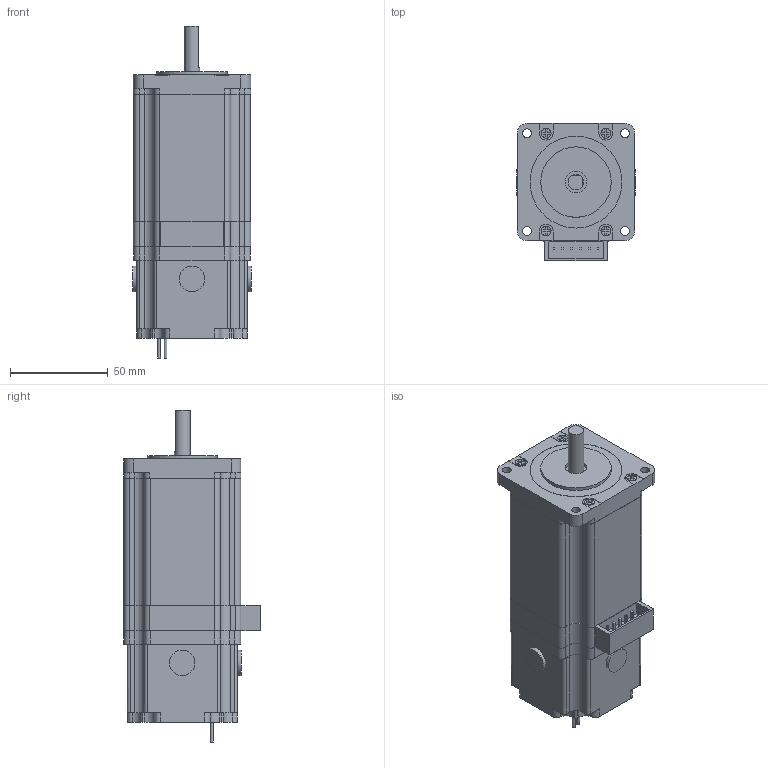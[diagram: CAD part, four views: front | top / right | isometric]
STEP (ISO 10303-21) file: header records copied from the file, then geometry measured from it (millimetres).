
FILE_DESCRIPTION(/* description */ (''),/* implementation_level */ '2;1');
FILE_NAME(/* name */ 'UB60D24-D40-488.stp',/* time_stamp */ '2018-08-20T13:54:21+08:00',/* author */ (''),/* organization */ (''),/* preprocessor_version */ 'ST-DEVELOPER v11',/* originating_system */ 'SIEMENS UGS NX 6.0',/* authorisation */ '');
FILE_SCHEMA (('CONFIG_CONTROL_DESIGN'));
Length unit declared in the file: millimetre
Products named in the file (1): UB60D24-D40-488
Bounding box: 60.4 x 70 x 169.8 mm (x, y, z)
Volume: 420608.4 mm3; surface area: 40373 mm2
Topology: 1 solids, 2 shells, 321 faces, 859 edges, 571 vertices
Faces by surface type: plane 217, cylinder 104
Full cylindrical faces by diameter (mm): 1.5 x2, 4.5 x4, 5 x4, 6 x1, 8 x2, 11 x2, 13 x3, 36 x1, 47 x1
Entity records: 9984 total; most frequent: CARTESIAN_POINT 1724, DIRECTION 1706, ORIENTED_EDGE 1670, EDGE_CURVE 835, LINE 608, VECTOR 608, VERTEX_POINT 567, AXIS2_PLACEMENT_3D 549
